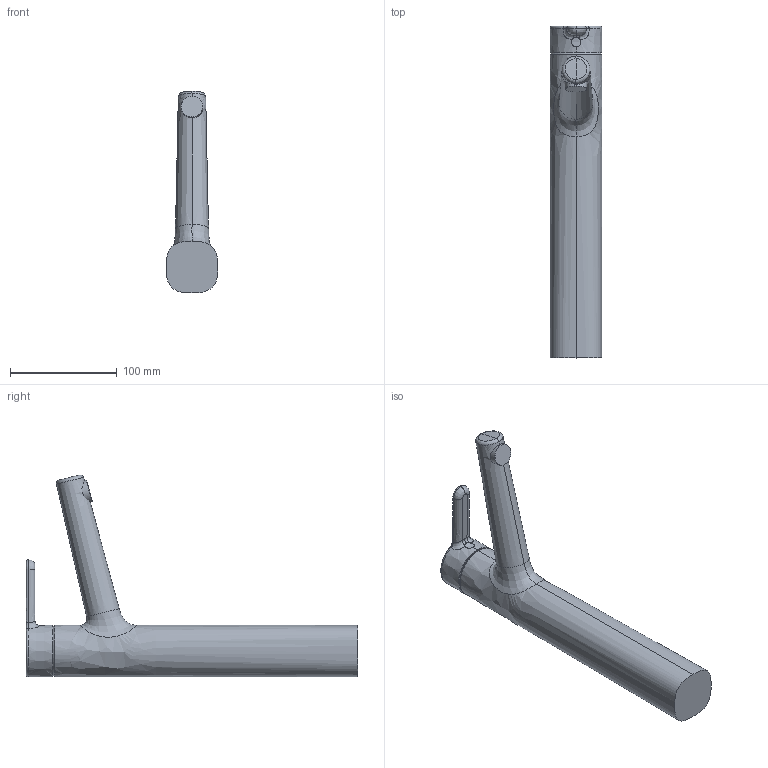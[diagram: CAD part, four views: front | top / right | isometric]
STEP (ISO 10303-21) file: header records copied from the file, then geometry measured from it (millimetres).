
FILE_DESCRIPTION (( 'STEP AP203' ), '1' );
FILE_NAME ('3001F(2017)+51692283.STEP', '2017-04-19T05:25:28', ( '' ), ( '' ), 'SwSTEP 2.0', 'SolidWorks 2016', '' );
FILE_SCHEMA (( 'CONFIG_CONTROL_DESIGN' ));
Length unit declared in the file: millimetre
Products named in the file (1): 3001F(2017)+51692283
Bounding box: 48.5 x 310.5 x 189.02 mm (x, y, z)
Volume: 704817.5 mm3; surface area: 67977.6 mm2
Topology: 1 solids, 1 shells, 45 faces, 113 edges, 71 vertices
Faces by surface type: bspline 29, plane 5, torus 4, sphere 3, cylinder 2, cone 2
Entity records: 5661 total; most frequent: CARTESIAN_POINT 4754, ORIENTED_EDGE 222, EDGE_CURVE 111, DIRECTION 89, B_SPLINE_CURVE_WITH_KNOTS 71, VERTEX_POINT 70, EDGE_LOOP 47, FACE_OUTER_BOUND 45
